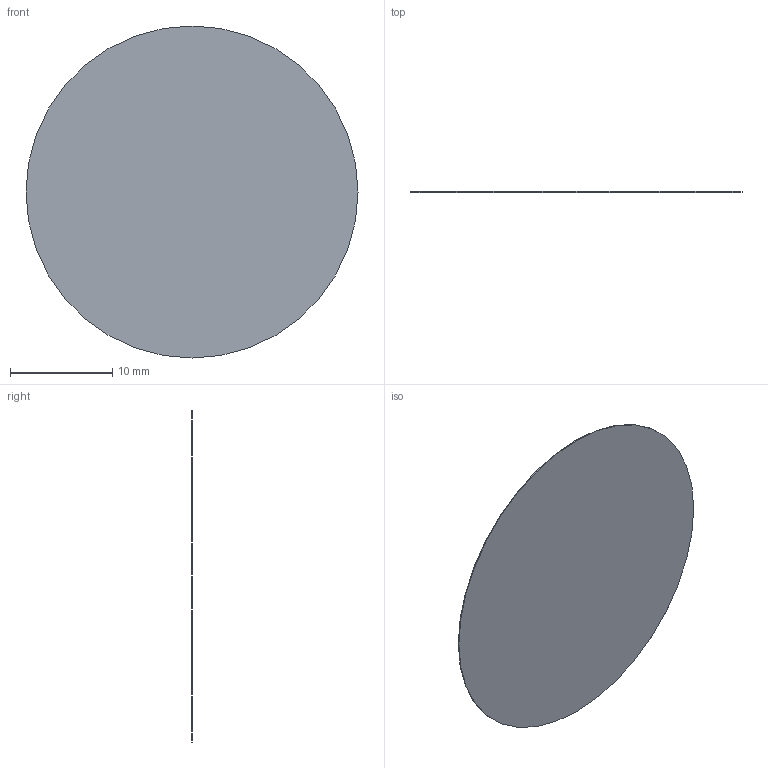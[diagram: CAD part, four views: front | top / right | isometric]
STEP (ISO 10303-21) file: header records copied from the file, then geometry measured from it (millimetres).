
FILE_DESCRIPTION(('Open CASCADE Model'),'2;1');
FILE_NAME('Open CASCADE Shape Model','2026-10-01T12:35:22',('Author'),( 'Open CASCADE'),'Open CASCADE STEP processor 7.8','Open CASCADE 7.8' ,'Unknown');
FILE_SCHEMA(('AUTOMOTIVE_DESIGN { 1 0 10303 214 1 1 1 1 }'));
Length unit declared in the file: millimetre
Products named in the file (2): V01_Display_active_area; V01_Display_active_area_solid
Assembly tree (1 placements, depth 2):
  V01_Display_active_area
    V01_Display_active_area_solid
Bounding box: 32.4 x 0.08 x 32.4 mm (x, y, z)
Volume: 66 mm3; surface area: 1657.1 mm2
Topology: 1 solids, 1 shells, 3 faces, 3 edges, 2 vertices
Faces by surface type: plane 2, cylinder 1
Full cylindrical faces by diameter (mm): 32.4 x1
Entity records: 135 total; most frequent: DIRECTION 21, CARTESIAN_POINT 16, AXIS2_PLACEMENT_3D 7, ORIENTED_EDGE 6, PCURVE 6, DEFINITIONAL_REPRESENTATION 6, LINE 5, VECTOR 5
